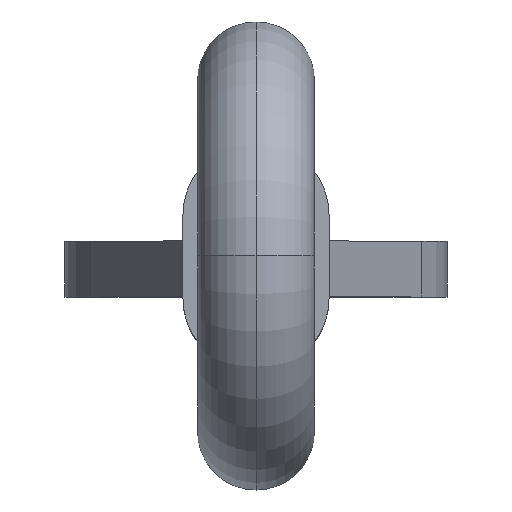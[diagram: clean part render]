
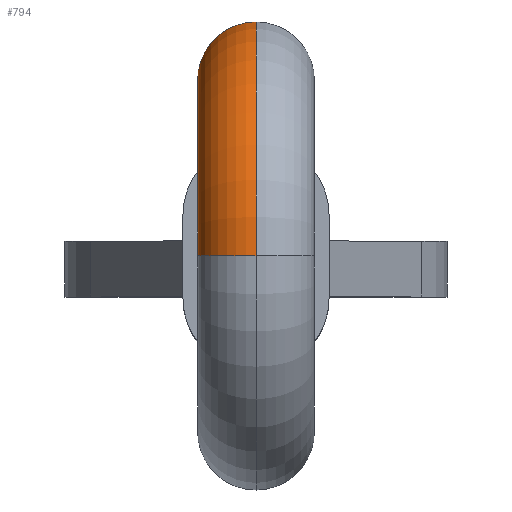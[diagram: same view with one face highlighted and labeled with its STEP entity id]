
A CAD part, top view. The second image highlights one B-rep face of the part: STEP entity #794.
In plain terms, the highlighted toroidal (fillet/blend) face has major radius 4.8 mm and minor radius 1.59 mm.
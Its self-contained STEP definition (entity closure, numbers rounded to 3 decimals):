
#26 = CARTESIAN_POINT ( 'NONE',  ( 0., -1.133, 141.79 ) ) ;
#35 = DIRECTION ( 'NONE',  ( 0., 0., 1. ) ) ;
#43 = DIRECTION ( 'NONE',  ( -1., 0., 0. ) ) ;
#62 = DIRECTION ( 'NONE',  ( 0., 0., -1. ) ) ;
#71 = DIRECTION ( 'NONE',  ( 0., 0., 1. ) ) ;
#73 = AXIS2_PLACEMENT_3D ( 'NONE', #837, #379, #71 ) ;
#77 = CIRCLE ( 'NONE', #638, 6.39 ) ;
#94 = CARTESIAN_POINT ( 'NONE',  ( 0., -1.133, 138.61 ) ) ;
#110 = EDGE_CURVE ( 'NONE', #915, #593, #479, .T. ) ;
#127 = DIRECTION ( 'NONE',  ( -1., 0., 0. ) ) ;
#136 = ORIENTED_EDGE ( 'NONE', *, *, #609, .F. ) ;
#172 = CARTESIAN_POINT ( 'NONE',  ( 0., -1.133, 135.4 ) ) ;
#203 = DIRECTION ( 'NONE',  ( 0., 0.667, 0.745 ) ) ;
#259 = FACE_OUTER_BOUND ( 'NONE', #806, .T. ) ;
#264 = CIRCLE ( 'NONE', #425, 1.59 ) ;
#269 = CARTESIAN_POINT ( 'NONE',  ( 0., -1.133, 135.4 ) ) ;
#354 = EDGE_CURVE ( 'NONE', #644, #915, #77, .T. ) ;
#379 = DIRECTION ( 'NONE',  ( -1., 0., 0. ) ) ;
#384 = EDGE_CURVE ( 'NONE', #644, #742, #264, .T. ) ;
#425 = AXIS2_PLACEMENT_3D ( 'NONE', #599, #512, #62 ) ;
#479 = CIRCLE ( 'NONE', #833, 1.59 ) ;
#512 = DIRECTION ( 'NONE',  ( 0., -1., 0. ) ) ;
#516 = ORIENTED_EDGE ( 'NONE', *, *, #384, .F. ) ;
#550 = DIRECTION ( 'NONE',  ( 1., 0., 0. ) ) ;
#558 = CIRCLE ( 'NONE', #73, 3.21 ) ;
#593 = VERTEX_POINT ( 'NONE', #605 ) ;
#599 = CARTESIAN_POINT ( 'NONE',  ( 0., -1.133, 140.2 ) ) ;
#605 = CARTESIAN_POINT ( 'NONE',  ( 0., 1.259, 133.26 ) ) ;
#609 = EDGE_CURVE ( 'NONE', #742, #593, #558, .T. ) ;
#638 = AXIS2_PLACEMENT_3D ( 'NONE', #172, #43, #715 ) ;
#644 = VERTEX_POINT ( 'NONE', #26 ) ;
#698 = ORIENTED_EDGE ( 'NONE', *, *, #110, .T. ) ;
#715 = DIRECTION ( 'NONE',  ( 0., 0., 1. ) ) ;
#742 = VERTEX_POINT ( 'NONE', #94 ) ;
#754 = TOROIDAL_SURFACE ( 'NONE', #863, 4.8, 1.59 ) ;
#759 = ORIENTED_EDGE ( 'NONE', *, *, #354, .T. ) ;
#794 = ADVANCED_FACE ( 'NONE', ( #259 ), #754, .T. ) ;
#806 = EDGE_LOOP ( 'NONE', ( #516, #759, #698, #136 ) ) ;
#833 = AXIS2_PLACEMENT_3D ( 'NONE', #893, #203, #550 ) ;
#837 = CARTESIAN_POINT ( 'NONE',  ( 0., -1.133, 135.4 ) ) ;
#863 = AXIS2_PLACEMENT_3D ( 'NONE', #269, #127, #35 ) ;
#885 = CARTESIAN_POINT ( 'NONE',  ( 0., 3.63, 131.14 ) ) ;
#893 = CARTESIAN_POINT ( 'NONE',  ( 0., 2.445, 132.2 ) ) ;
#915 = VERTEX_POINT ( 'NONE', #885 ) ;
